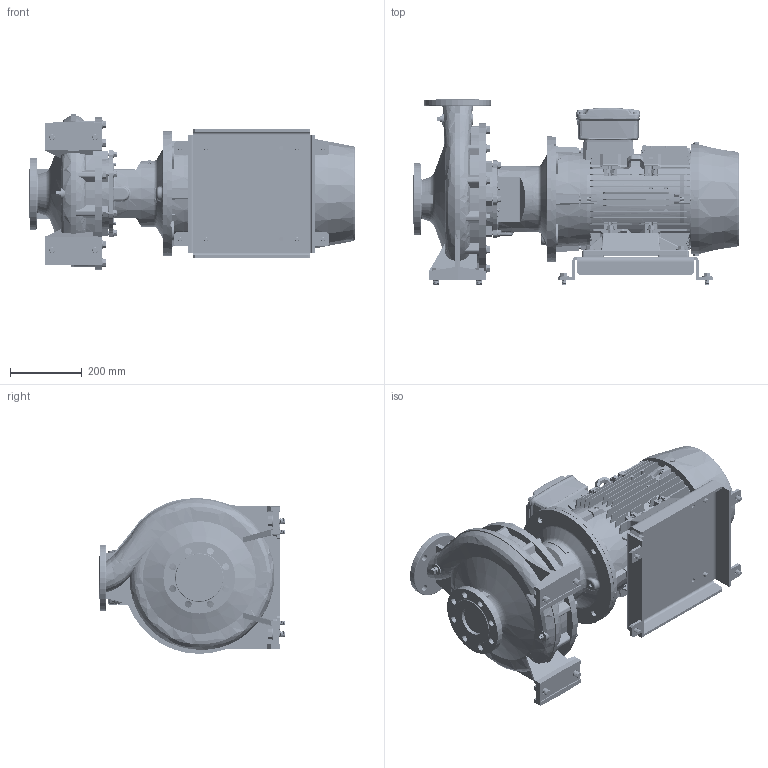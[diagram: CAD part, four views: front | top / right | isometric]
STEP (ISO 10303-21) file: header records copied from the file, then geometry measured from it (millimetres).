
FILE_DESCRIPTION (( 'STEP AP214' ), '1' );
FILE_NAME ('GSD4 65-315_11.0 & 15.0_(160ML)_W21.STEP', '2026-07-01T02:05:45', ( '' ), ( '' ), 'SwSTEP 2.0', 'SolidWorks 2024', '' );
FILE_SCHEMA (( 'AUTOMOTIVE_DESIGN' ));
Length unit declared in the file: millimetre
Products named in the file (12): Parametric bolt_SFT-A297B; CGS11-5253; 160M_L_ALIE3_W21T_B35; Parametric Flat Washer_M12; Parametric bolt and washer_SFT-A303B; Parametric bolt and washer_SFT-A353B; 65-315-160M_L_ﾃﾞﾌｫﾙﾄ; Parametric bolt and washer_SFT-A297B; Parametric Flat Washer_M16; GSD4 65-315_11.0 & 15.0_(160ML)_W21; Parametric bolt_SFT-A353B; Parametric bolt_SFT-A303B
Assembly tree (21 placements, depth 3):
  GSD4 65-315_11.0 & 15.0_(160ML)_W21
    65-315-160M_L_ﾃﾞﾌｫﾙﾄ
    CGS11-5253
    Parametric bolt and washer_SFT-A297B  x4
      Parametric bolt_SFT-A297B
      Parametric Flat Washer_M12
    Parametric bolt and washer_SFT-A353B  x4
      Parametric bolt_SFT-A353B
      Parametric Flat Washer_M16
    Parametric bolt and washer_SFT-A303B  x4
      Parametric bolt_SFT-A303B
      Parametric Flat Washer_M12
    160M_L_ALIE3_W21T_B35
Bounding box: 910.3 x 519.5 x 434.36 mm (x, y, z)
Volume: 55138188.7 mm3; surface area: 3550669.3 mm2
Topology: 57 solids, 63 shells, 6598 faces, 17038 edges, 11012 vertices
Faces by surface type: plane 3888, cylinder 1351, cone 635, bspline 456, torus 252, sphere 16
Entity records: 245147 total; most frequent: CARTESIAN_POINT 103621, ORIENTED_EDGE 31052, DIRECTION 26257, EDGE_CURVE 15526, VERTEX_POINT 10043, LINE 9759, VECTOR 9759, AXIS2_PLACEMENT_3D 8249
